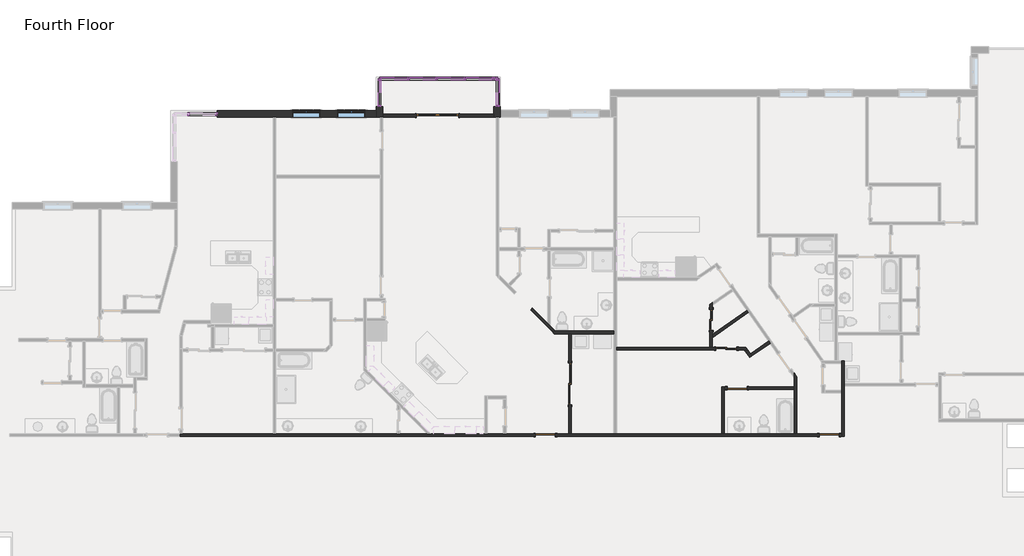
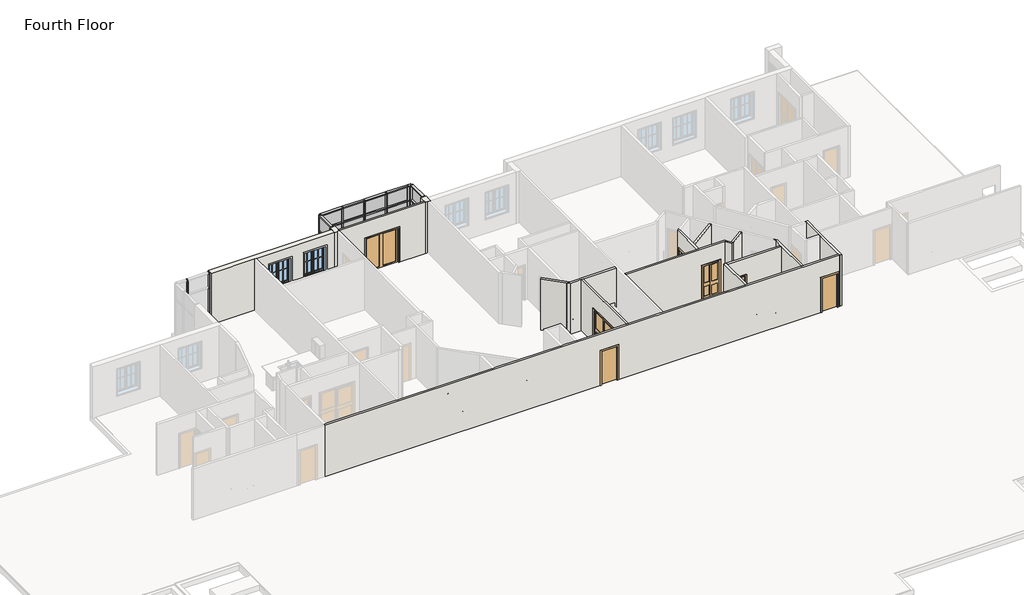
# One storey, part 10 of 17: 46 members, 17 walls, 14 plates, 7 doors, 2 windows.
"""IFC4 building model written with IfcOpenShell, lengths in millimetres."""

from ifc_helpers import new_model, si_unit, frame, origin, place, context, project, spatial, polyline, outline, extrude, faceted_brep, transform, mapped, element, save
from components import door_0a7806e9, door_c29894e6, door_88c23cd7, door_caaf2a11, rectangular_mullion_rectangular_mullion_1_fa3625a1, rectangular_mullion_rectangular_mullion_1_6186cc23, rectangular_mullion_rectangular_mullion_1_049a2e78, rectangular_mullion_rectangular_mullion_1_5cd4c5ac, rectangular_mullion_rectangular_mullion_1_a50b3cda, rectangular_mullion_rectangular_mullion_1_7cbf0b94, rectangular_mullion_rectangular_mullion_1_273a15f2, rectangular_mullion_rectangular_mullion_1_867fe1e1, rectangular_mullion_rectangular_mullion_1_e7cd13e6, rectangular_mullion_rectangular_mullion_1_4b421c8f, system_panel_glazed_53e6f9fb, system_panel_glazed_cb820e14, system_panel_glazed_53e3ec8b, system_panel_glazed_bdec29fe, system_panel_glazed_a1d2dedd, system_panel_glazed_37454f57, window_33528cc2

model = new_model("IFC4")

# Units and contexts
model_context = context("Model", 3, world=origin())
ifc_project = project(units=[si_unit("LENGTHUNIT", "METRE", prefix="MILLI")], contexts=[model_context])

# Site, building, storey
site = spatial("IfcSite", under=ifc_project)
building = spatial("IfcBuilding", under=site)
storey = spatial("IfcBuildingStorey", under=building, Name="Fourth Floor", Elevation=9144.0)

# Doors
placement = place(None, origin())
door_shape = door_0a7806e9(model_context)
element("IfcDoor", 1, ObjectType="Double-Glass 1 : 72\" x 82\"", at=placement, inside=storey, context=model_context, shape_type="MappedRepresentation", body=[
    mapped(door_shape, transform((29070.5311023, 16131.8552839, 9144.0), x_axis=(1.0, 0.0, 0.0), y_axis=(0.0, 1.0, 0.0), z_axis=(0.0, 0.0, 1.0))),
])
door_2_shape = door_c29894e6(model_context)
element("IfcDoor", 2, ObjectType="Single-Flush : 34\" x 80\"", at=placement, inside=storey, context=model_context, shape_type="MappedRepresentation", body=[
    mapped(door_2_shape, transform((46002.0126872, 2302.2091714, 9144.0), x_axis=(1.0, 0.0, 0.0), y_axis=(0.0, 1.0, 0.0), z_axis=(0.0, 0.0, 1.0))),
])
element("IfcDoor", 3, ObjectType="Single-Flush : 34\" x 80\"", at=placement, inside=storey, context=model_context, shape_type="MappedRepresentation", body=[
    mapped(door_2_shape, transform((42028.0852525, 4334.2091714, 9144.0), x_axis=(-1.0, 0.0, 0.0), y_axis=(0.0, -1.0, 0.0), z_axis=(0.0, 0.0, 1.0))),
])
element("IfcDoor", 4, ObjectType="Single-Flush : 34\" x 80\"", at=placement, inside=storey, context=model_context, shape_type="MappedRepresentation", body=[
    mapped(door_2_shape, transform((33733.8246645, 2302.2091714, 9144.0), x_axis=(1.0, 0.0, 0.0), y_axis=(0.0, 1.0, 0.0), z_axis=(0.0, 0.0, 1.0))),
])
door_3_shape = door_88c23cd7(model_context)
element("IfcDoor", 5, ObjectType="Sliding-Closet : 36\" x 80\"", at=placement, inside=storey, context=model_context, shape_type="MappedRepresentation", body=[
    mapped(door_3_shape, transform((41029.9347694, 7292.860079, 9144.0), x_axis=(0.0, 1.0, 0.0), y_axis=(-1.0, 0.0, 0.0), z_axis=(0.0, 0.0, 1.0))),
])
element("IfcDoor", 6, ObjectType="Sliding-Closet : 36\" x 80\"", at=placement, inside=storey, context=model_context, shape_type="MappedRepresentation", body=[
    mapped(door_3_shape, transform((41563.3347694, 5921.260079, 9144.0), x_axis=(1.0, 0.0, 0.0), y_axis=(0.0, 1.0, 0.0), z_axis=(0.0, 0.0, 1.0))),
])
door_4_shape = door_caaf2a11(model_context)
element("IfcDoor", 7, ObjectType="Sliding-Closet : 72\" x 80\"", at=placement, inside=storey, context=model_context, shape_type="MappedRepresentation", body=[
    mapped(door_4_shape, transform((34927.6246645, 4525.6075569, 9144.0), x_axis=(0.0, 1.0, 0.0), y_axis=(-1.0, 0.0, 0.0), z_axis=(0.0, 0.0, 1.0))),
])

# Members
rectangular_mullion_rectangular_mullion_1_shape = rectangular_mullion_rectangular_mullion_1_fa3625a1(model_context)
element("IfcMember", 8, ObjectType="Rectangular Mullion : Rectangular Mullion 1", at=placement, inside=storey, context=model_context, shape_type="MappedRepresentation", body=[
    mapped(rectangular_mullion_rectangular_mullion_1_shape, transform((19487.8198571, 16206.4791823, 9144.0), x_axis=(0.0, 0.0, -1.0), y_axis=(0.0, 1.0, 0.0), z_axis=(1.0, 0.0, 0.0))),
])
rectangular_mullion_rectangular_mullion_1_2_shape = rectangular_mullion_rectangular_mullion_1_6186cc23(model_context)
element("IfcMember", 9, ObjectType="Rectangular Mullion : Rectangular Mullion 1", at=placement, inside=storey, context=model_context, shape_type="MappedRepresentation", body=[
    mapped(rectangular_mullion_rectangular_mullion_1_2_shape, transform((18300.3698568, 16206.4791823, 9144.0), x_axis=(-1.0, 0.0, 0.0), y_axis=(0.0, 1.0, 0.0), z_axis=(0.0, 0.0, -1.0))),
])
rectangular_mullion_rectangular_mullion_1_3_shape = rectangular_mullion_rectangular_mullion_1_049a2e78(model_context)
element("IfcMember", 10, ObjectType="Rectangular Mullion : Rectangular Mullion 1", at=placement, inside=storey, context=model_context, shape_type="MappedRepresentation", body=[
    mapped(rectangular_mullion_rectangular_mullion_1_3_shape, transform((18300.3698568, 16206.4791823, 11309.35), x_axis=(-1.0, 0.0, 0.0), y_axis=(0.0, 1.0, 0.0), z_axis=(0.0, 0.0, -1.0))),
])
rectangular_mullion_rectangular_mullion_1_4_shape = rectangular_mullion_rectangular_mullion_1_5cd4c5ac(model_context)
element("IfcMember", 11, ObjectType="Rectangular Mullion : Rectangular Mullion 1", at=placement, inside=storey, context=model_context, shape_type="MappedRepresentation", body=[
    mapped(rectangular_mullion_rectangular_mullion_1_4_shape, transform((19551.3198571, 16206.4791823, 12192.0), x_axis=(1.0, 0.0, 0.0), y_axis=(0.0, 1.0, 0.0), z_axis=(0.0, 0.0, 1.0))),
])
rectangular_mullion_rectangular_mullion_1_5_shape = rectangular_mullion_rectangular_mullion_1_a50b3cda(model_context)
element("IfcMember", 12, ObjectType="Rectangular Mullion : Rectangular Mullion 1", at=placement, inside=storey, context=model_context, shape_type="MappedRepresentation", body=[
    mapped(rectangular_mullion_rectangular_mullion_1_5_shape, transform((19551.3198571, 16206.4791823, 11309.35), x_axis=(1.0, 0.0, 0.0), y_axis=(0.0, 1.0, 0.0), z_axis=(0.0, 0.0, 1.0))),
])
element("IfcMember", 13, ObjectType="Rectangular Mullion : Rectangular Mullion 1", at=placement, inside=storey, context=model_context, shape_type="MappedRepresentation", body=[
    mapped(rectangular_mullion_rectangular_mullion_1_shape, transform((27780.9198574, 17730.4791823, 12192.0), x_axis=(0.0, 0.0, 1.0), y_axis=(0.0, -1.0, 0.0), z_axis=(1.0, 0.0, 0.0))),
])
element("IfcMember", 14, ObjectType="Rectangular Mullion : Rectangular Mullion 1", at=placement, inside=storey, context=model_context, shape_type="MappedRepresentation", body=[
    mapped(rectangular_mullion_rectangular_mullion_1_shape, transform((29000.1198574, 17730.4791823, 12192.0), x_axis=(0.0, 0.0, 1.0), y_axis=(0.0, -1.0, 0.0), z_axis=(1.0, 0.0, 0.0))),
])
element("IfcMember", 15, ObjectType="Rectangular Mullion : Rectangular Mullion 1", at=placement, inside=storey, context=model_context, shape_type="MappedRepresentation", body=[
    mapped(rectangular_mullion_rectangular_mullion_1_shape, transform((30219.3198574, 17730.4791823, 12192.0), x_axis=(0.0, 0.0, 1.0), y_axis=(0.0, -1.0, 0.0), z_axis=(1.0, 0.0, 0.0))),
])
element("IfcMember", 16, ObjectType="Rectangular Mullion : Rectangular Mullion 1", at=placement, inside=storey, context=model_context, shape_type="MappedRepresentation", body=[
    mapped(rectangular_mullion_rectangular_mullion_1_shape, transform((31438.5198574, 17730.4791823, 12192.0), x_axis=(0.0, 0.0, 1.0), y_axis=(0.0, -1.0, 0.0), z_axis=(1.0, 0.0, 0.0))),
])
element("IfcMember", 17, ObjectType="Rectangular Mullion : Rectangular Mullion 1", at=placement, inside=storey, context=model_context, shape_type="MappedRepresentation", body=[
    mapped(rectangular_mullion_rectangular_mullion_1_shape, transform((26625.2198571, 17730.4791823, 9144.0), x_axis=(0.0, 0.0, -1.0), y_axis=(0.0, -1.0, 0.0), z_axis=(-1.0, 0.0, 0.0))),
])
element("IfcMember", 18, ObjectType="Rectangular Mullion : Rectangular Mullion 1", at=placement, inside=storey, context=model_context, shape_type="MappedRepresentation", body=[
    mapped(rectangular_mullion_rectangular_mullion_1_shape, transform((27844.4198574, 17730.4791823, 9144.0), x_axis=(0.0, 0.0, -1.0), y_axis=(0.0, -1.0, 0.0), z_axis=(-1.0, 0.0, 0.0))),
])
element("IfcMember", 19, ObjectType="Rectangular Mullion : Rectangular Mullion 1", at=placement, inside=storey, context=model_context, shape_type="MappedRepresentation", body=[
    mapped(rectangular_mullion_rectangular_mullion_1_shape, transform((29063.6198574, 17730.4791823, 9144.0), x_axis=(0.0, 0.0, -1.0), y_axis=(0.0, -1.0, 0.0), z_axis=(-1.0, 0.0, 0.0))),
])
element("IfcMember", 20, ObjectType="Rectangular Mullion : Rectangular Mullion 1", at=placement, inside=storey, context=model_context, shape_type="MappedRepresentation", body=[
    mapped(rectangular_mullion_rectangular_mullion_1_shape, transform((30282.8198574, 17730.4791823, 9144.0), x_axis=(0.0, 0.0, -1.0), y_axis=(0.0, -1.0, 0.0), z_axis=(-1.0, 0.0, 0.0))),
])
element("IfcMember", 21, ObjectType="Rectangular Mullion : Rectangular Mullion 1", at=placement, inside=storey, context=model_context, shape_type="MappedRepresentation", body=[
    mapped(rectangular_mullion_rectangular_mullion_1_5_shape, transform((26561.7198571, 17730.4791823, 9144.0), x_axis=(0.0, 1.0, 0.0), y_axis=(1.0, 0.0, 0.0), z_axis=(0.0, 0.0, -1.0))),
])
element("IfcMember", 22, ObjectType="Rectangular Mullion : Rectangular Mullion 1", at=placement, inside=storey, context=model_context, shape_type="MappedRepresentation", body=[
    mapped(rectangular_mullion_rectangular_mullion_1_5_shape, transform((31667.447822, 17730.4791823, 9144.0), x_axis=(1.0, 0.0, 0.0), y_axis=(0.0, -1.0, 0.0), z_axis=(0.0, 0.0, -1.0))),
])
element("IfcMember", 23, ObjectType="Rectangular Mullion : Rectangular Mullion 1", at=placement, inside=storey, context=model_context, shape_type="MappedRepresentation", body=[
    mapped(rectangular_mullion_rectangular_mullion_1_5_shape, transform((31667.447822, 16511.2791823, 9144.0), x_axis=(0.0, -1.0, 0.0), y_axis=(-1.0, 0.0, 0.0), z_axis=(0.0, 0.0, -1.0))),
])
element("IfcMember", 24, ObjectType="Rectangular Mullion : Rectangular Mullion 1", at=placement, inside=storey, context=model_context, shape_type="MappedRepresentation", body=[
    mapped(rectangular_mullion_rectangular_mullion_1_4_shape, transform((26561.7198571, 17730.4791823, 11309.35), x_axis=(0.0, 1.0, 0.0), y_axis=(1.0, 0.0, 0.0), z_axis=(0.0, 0.0, -1.0))),
])
element("IfcMember", 25, ObjectType="Rectangular Mullion : Rectangular Mullion 1", at=placement, inside=storey, context=model_context, shape_type="MappedRepresentation", body=[
    mapped(rectangular_mullion_rectangular_mullion_1_4_shape, transform((31667.447822, 17730.4791823, 11309.35), x_axis=(1.0, 0.0, 0.0), y_axis=(0.0, -1.0, 0.0), z_axis=(0.0, 0.0, -1.0))),
])
element("IfcMember", 26, ObjectType="Rectangular Mullion : Rectangular Mullion 1", at=placement, inside=storey, context=model_context, shape_type="MappedRepresentation", body=[
    mapped(rectangular_mullion_rectangular_mullion_1_4_shape, transform((31667.447822, 16511.2791823, 11309.35), x_axis=(0.0, -1.0, 0.0), y_axis=(-1.0, 0.0, 0.0), z_axis=(0.0, 0.0, -1.0))),
])
element("IfcMember", 27, ObjectType="Rectangular Mullion : Rectangular Mullion 1", at=placement, inside=storey, context=model_context, shape_type="MappedRepresentation", body=[
    mapped(rectangular_mullion_rectangular_mullion_1_4_shape, transform((26561.7198571, 16511.2791823, 12192.0), x_axis=(0.0, -1.0, 0.0), y_axis=(1.0, 0.0, 0.0), z_axis=(0.0, 0.0, 1.0))),
])
element("IfcMember", 28, ObjectType="Rectangular Mullion : Rectangular Mullion 1", at=placement, inside=storey, context=model_context, shape_type="MappedRepresentation", body=[
    mapped(rectangular_mullion_rectangular_mullion_1_4_shape, transform((26561.7198571, 17730.4791823, 12192.0), x_axis=(-1.0, 0.0, 0.0), y_axis=(0.0, -1.0, 0.0), z_axis=(0.0, 0.0, 1.0))),
])
element("IfcMember", 29, ObjectType="Rectangular Mullion : Rectangular Mullion 1", at=placement, inside=storey, context=model_context, shape_type="MappedRepresentation", body=[
    mapped(rectangular_mullion_rectangular_mullion_1_4_shape, transform((31667.447822, 17730.4791823, 12192.0), x_axis=(0.0, 1.0, 0.0), y_axis=(-1.0, 0.0, 0.0), z_axis=(0.0, 0.0, 1.0))),
])
element("IfcMember", 30, ObjectType="Rectangular Mullion : Rectangular Mullion 1", at=placement, inside=storey, context=model_context, shape_type="MappedRepresentation", body=[
    mapped(rectangular_mullion_rectangular_mullion_1_5_shape, transform((26561.7198571, 16511.2791823, 11309.35), x_axis=(0.0, -1.0, 0.0), y_axis=(1.0, 0.0, 0.0), z_axis=(0.0, 0.0, 1.0))),
])
element("IfcMember", 31, ObjectType="Rectangular Mullion : Rectangular Mullion 1", at=placement, inside=storey, context=model_context, shape_type="MappedRepresentation", body=[
    mapped(rectangular_mullion_rectangular_mullion_1_5_shape, transform((26561.7198571, 17730.4791823, 11309.35), x_axis=(-1.0, 0.0, 0.0), y_axis=(0.0, -1.0, 0.0), z_axis=(0.0, 0.0, 1.0))),
])
element("IfcMember", 32, ObjectType="Rectangular Mullion : Rectangular Mullion 1", at=placement, inside=storey, context=model_context, shape_type="MappedRepresentation", body=[
    mapped(rectangular_mullion_rectangular_mullion_1_5_shape, transform((31667.447822, 17730.4791823, 11309.35), x_axis=(0.0, 1.0, 0.0), y_axis=(-1.0, 0.0, 0.0), z_axis=(0.0, 0.0, 1.0))),
])
rectangular_mullion_rectangular_mullion_1_6_shape = rectangular_mullion_rectangular_mullion_1_7cbf0b94(model_context)
element("IfcMember", 33, ObjectType="Rectangular Mullion : Rectangular Mullion 1", at=placement, inside=storey, context=model_context, shape_type="MappedRepresentation", body=[
    mapped(rectangular_mullion_rectangular_mullion_1_6_shape, transform((27780.9198574, 17730.4791823, 11309.35), x_axis=(0.0, 0.0, 1.0), y_axis=(0.0, -1.0, 0.0), z_axis=(1.0, 0.0, 0.0))),
])
element("IfcMember", 34, ObjectType="Rectangular Mullion : Rectangular Mullion 1", at=placement, inside=storey, context=model_context, shape_type="MappedRepresentation", body=[
    mapped(rectangular_mullion_rectangular_mullion_1_6_shape, transform((29000.1198574, 17730.4791823, 11309.35), x_axis=(0.0, 0.0, 1.0), y_axis=(0.0, -1.0, 0.0), z_axis=(1.0, 0.0, 0.0))),
])
element("IfcMember", 35, ObjectType="Rectangular Mullion : Rectangular Mullion 1", at=placement, inside=storey, context=model_context, shape_type="MappedRepresentation", body=[
    mapped(rectangular_mullion_rectangular_mullion_1_6_shape, transform((30219.3198574, 17730.4791823, 11309.35), x_axis=(0.0, 0.0, 1.0), y_axis=(0.0, -1.0, 0.0), z_axis=(1.0, 0.0, 0.0))),
])
element("IfcMember", 36, ObjectType="Rectangular Mullion : Rectangular Mullion 1", at=placement, inside=storey, context=model_context, shape_type="MappedRepresentation", body=[
    mapped(rectangular_mullion_rectangular_mullion_1_6_shape, transform((31438.5198574, 17730.4791823, 11309.35), x_axis=(0.0, 0.0, 1.0), y_axis=(0.0, -1.0, 0.0), z_axis=(1.0, 0.0, 0.0))),
])
element("IfcMember", 37, ObjectType="Rectangular Mullion : Rectangular Mullion 1", at=placement, inside=storey, context=model_context, shape_type="MappedRepresentation", body=[
    mapped(rectangular_mullion_rectangular_mullion_1_2_shape, transform((27812.6698574, 17730.4791823, 9144.0), x_axis=(1.0, 0.0, 0.0), y_axis=(0.0, -1.0, 0.0), z_axis=(0.0, 0.0, -1.0))),
])
element("IfcMember", 38, ObjectType="Rectangular Mullion : Rectangular Mullion 1", at=placement, inside=storey, context=model_context, shape_type="MappedRepresentation", body=[
    mapped(rectangular_mullion_rectangular_mullion_1_2_shape, transform((29031.8698574, 17730.4791823, 9144.0), x_axis=(1.0, 0.0, 0.0), y_axis=(0.0, -1.0, 0.0), z_axis=(0.0, 0.0, -1.0))),
])
element("IfcMember", 39, ObjectType="Rectangular Mullion : Rectangular Mullion 1", at=placement, inside=storey, context=model_context, shape_type="MappedRepresentation", body=[
    mapped(rectangular_mullion_rectangular_mullion_1_2_shape, transform((30251.0698574, 17730.4791823, 9144.0), x_axis=(1.0, 0.0, 0.0), y_axis=(0.0, -1.0, 0.0), z_axis=(0.0, 0.0, -1.0))),
])
element("IfcMember", 40, ObjectType="Rectangular Mullion : Rectangular Mullion 1", at=placement, inside=storey, context=model_context, shape_type="MappedRepresentation", body=[
    mapped(rectangular_mullion_rectangular_mullion_1_2_shape, transform((31470.2698574, 17730.4791823, 9144.0), x_axis=(1.0, 0.0, 0.0), y_axis=(0.0, -1.0, 0.0), z_axis=(0.0, 0.0, -1.0))),
])
element("IfcMember", 41, ObjectType="Rectangular Mullion : Rectangular Mullion 1", at=placement, inside=storey, context=model_context, shape_type="MappedRepresentation", body=[
    mapped(rectangular_mullion_rectangular_mullion_1_3_shape, transform((27812.6698574, 17730.4791823, 11309.35), x_axis=(1.0, 0.0, 0.0), y_axis=(0.0, -1.0, 0.0), z_axis=(0.0, 0.0, -1.0))),
])
element("IfcMember", 42, ObjectType="Rectangular Mullion : Rectangular Mullion 1", at=placement, inside=storey, context=model_context, shape_type="MappedRepresentation", body=[
    mapped(rectangular_mullion_rectangular_mullion_1_3_shape, transform((29031.8698574, 17730.4791823, 11309.35), x_axis=(1.0, 0.0, 0.0), y_axis=(0.0, -1.0, 0.0), z_axis=(0.0, 0.0, -1.0))),
])
element("IfcMember", 43, ObjectType="Rectangular Mullion : Rectangular Mullion 1", at=placement, inside=storey, context=model_context, shape_type="MappedRepresentation", body=[
    mapped(rectangular_mullion_rectangular_mullion_1_3_shape, transform((30251.0698574, 17730.4791823, 11309.35), x_axis=(1.0, 0.0, 0.0), y_axis=(0.0, -1.0, 0.0), z_axis=(0.0, 0.0, -1.0))),
])
element("IfcMember", 44, ObjectType="Rectangular Mullion : Rectangular Mullion 1", at=placement, inside=storey, context=model_context, shape_type="MappedRepresentation", body=[
    mapped(rectangular_mullion_rectangular_mullion_1_3_shape, transform((31470.2698574, 17730.4791823, 11309.35), x_axis=(1.0, 0.0, 0.0), y_axis=(0.0, -1.0, 0.0), z_axis=(0.0, 0.0, -1.0))),
])
rectangular_mullion_rectangular_mullion_1_7_shape = rectangular_mullion_rectangular_mullion_1_273a15f2(model_context)
element("IfcMember", 45, ObjectType="Rectangular Mullion : Rectangular Mullion 1", at=placement, inside=storey, context=model_context, shape_type="MappedRepresentation", body=[
    mapped(rectangular_mullion_rectangular_mullion_1_7_shape, transform((26561.7198571, 17666.9791823, 12192.0), x_axis=(0.0, 0.0, 1.0), y_axis=(1.0, 0.0, 0.0), z_axis=(0.0, 1.0, 0.0))),
])
element("IfcMember", 46, ObjectType="Rectangular Mullion : Rectangular Mullion 1", at=placement, inside=storey, context=model_context, shape_type="MappedRepresentation", body=[
    mapped(rectangular_mullion_rectangular_mullion_1_7_shape, transform((31667.447822, 16574.7791823, 12192.0), x_axis=(0.0, 0.0, 1.0), y_axis=(-1.0, 0.0, 0.0), z_axis=(0.0, -1.0, 0.0))),
])
element("IfcMember", 47, ObjectType="Rectangular Mullion : Rectangular Mullion 1", at=placement, inside=storey, context=model_context, shape_type="MappedRepresentation", body=[
    mapped(rectangular_mullion_rectangular_mullion_1_7_shape, transform((26561.7198571, 16574.7791823, 9144.0), x_axis=(0.0, 0.0, -1.0), y_axis=(1.0, 0.0, 0.0), z_axis=(0.0, -1.0, 0.0))),
])
element("IfcMember", 48, ObjectType="Rectangular Mullion : Rectangular Mullion 1", at=placement, inside=storey, context=model_context, shape_type="MappedRepresentation", body=[
    mapped(rectangular_mullion_rectangular_mullion_1_7_shape, transform((31667.447822, 17666.9791823, 9144.0), x_axis=(0.0, 0.0, -1.0), y_axis=(-1.0, 0.0, 0.0), z_axis=(0.0, 1.0, 0.0))),
])
rectangular_mullion_rectangular_mullion_1_8_shape = rectangular_mullion_rectangular_mullion_1_867fe1e1(model_context)
element("IfcMember", 49, ObjectType="Rectangular Mullion : Rectangular Mullion 1", at=placement, inside=storey, context=model_context, shape_type="MappedRepresentation", body=[
    mapped(rectangular_mullion_rectangular_mullion_1_8_shape, transform((26561.7198571, 17666.9791823, 11309.35), x_axis=(0.0, 0.0, 1.0), y_axis=(1.0, 0.0, 0.0), z_axis=(0.0, 1.0, 0.0))),
])
element("IfcMember", 50, ObjectType="Rectangular Mullion : Rectangular Mullion 1", at=placement, inside=storey, context=model_context, shape_type="MappedRepresentation", body=[
    mapped(rectangular_mullion_rectangular_mullion_1_8_shape, transform((31667.447822, 16574.7791823, 11309.35), x_axis=(0.0, 0.0, 1.0), y_axis=(-1.0, 0.0, 0.0), z_axis=(0.0, -1.0, 0.0))),
])
rectangular_mullion_rectangular_mullion_1_9_shape = rectangular_mullion_rectangular_mullion_1_e7cd13e6(model_context)
element("IfcMember", 51, ObjectType="Rectangular Mullion : Rectangular Mullion 1", at=placement, inside=storey, context=model_context, shape_type="MappedRepresentation", body=[
    mapped(rectangular_mullion_rectangular_mullion_1_9_shape, transform((31603.947822, 17730.4791823, 12192.0), x_axis=(0.0, 0.0, 1.0), y_axis=(0.0, -1.0, 0.0), z_axis=(1.0, 0.0, 0.0))),
])
element("IfcMember", 52, ObjectType="Rectangular Mullion : Rectangular Mullion 1", at=placement, inside=storey, context=model_context, shape_type="MappedRepresentation", body=[
    mapped(rectangular_mullion_rectangular_mullion_1_9_shape, transform((31502.0198574, 17730.4791823, 9144.0), x_axis=(0.0, 0.0, -1.0), y_axis=(0.0, -1.0, 0.0), z_axis=(-1.0, 0.0, 0.0))),
])
rectangular_mullion_rectangular_mullion_1_10_shape = rectangular_mullion_rectangular_mullion_1_4b421c8f(model_context)
element("IfcMember", 53, ObjectType="Rectangular Mullion : Rectangular Mullion 1", at=placement, inside=storey, context=model_context, shape_type="MappedRepresentation", body=[
    mapped(rectangular_mullion_rectangular_mullion_1_10_shape, transform((31603.947822, 17730.4791823, 11309.35), x_axis=(0.0, 0.0, 1.0), y_axis=(0.0, -1.0, 0.0), z_axis=(1.0, 0.0, 0.0))),
])

# Plates
system_panel_glazed_shape = system_panel_glazed_53e6f9fb(model_context)
element("IfcPlate", 54, ObjectType="System Panel : Glazed", at=placement, inside=storey, context=model_context, shape_type="MappedRepresentation", body=[
    mapped(system_panel_glazed_shape, transform((27203.0698573, 17730.4791823, 9207.5), x_axis=(1.0, 0.0, 0.0), y_axis=(0.0, 1.0, 0.0), z_axis=(0.0, 0.0, 1.0))),
])
element("IfcPlate", 55, ObjectType="System Panel : Glazed", at=placement, inside=storey, context=model_context, shape_type="MappedRepresentation", body=[
    mapped(system_panel_glazed_shape, transform((28422.2698574, 17730.4791823, 9207.5), x_axis=(1.0, 0.0, 0.0), y_axis=(0.0, 1.0, 0.0), z_axis=(0.0, 0.0, 1.0))),
])
element("IfcPlate", 56, ObjectType="System Panel : Glazed", at=placement, inside=storey, context=model_context, shape_type="MappedRepresentation", body=[
    mapped(system_panel_glazed_shape, transform((29641.4698574, 17730.4791823, 9207.5), x_axis=(1.0, 0.0, 0.0), y_axis=(0.0, 1.0, 0.0), z_axis=(0.0, 0.0, 1.0))),
])
element("IfcPlate", 57, ObjectType="System Panel : Glazed", at=placement, inside=storey, context=model_context, shape_type="MappedRepresentation", body=[
    mapped(system_panel_glazed_shape, transform((30860.6698574, 17730.4791823, 9207.5), x_axis=(1.0, 0.0, 0.0), y_axis=(0.0, 1.0, 0.0), z_axis=(0.0, 0.0, 1.0))),
])
system_panel_glazed_2_shape = system_panel_glazed_cb820e14(model_context)
element("IfcPlate", 58, ObjectType="System Panel : Glazed", at=placement, inside=storey, context=model_context, shape_type="MappedRepresentation", body=[
    mapped(system_panel_glazed_2_shape, transform((27203.0698573, 17730.4791823, 11341.1), x_axis=(1.0, 0.0, 0.0), y_axis=(0.0, 1.0, 0.0), z_axis=(0.0, 0.0, 1.0))),
])
element("IfcPlate", 59, ObjectType="System Panel : Glazed", at=placement, inside=storey, context=model_context, shape_type="MappedRepresentation", body=[
    mapped(system_panel_glazed_2_shape, transform((28422.2698574, 17730.4791823, 11341.1), x_axis=(1.0, 0.0, 0.0), y_axis=(0.0, 1.0, 0.0), z_axis=(0.0, 0.0, 1.0))),
])
element("IfcPlate", 60, ObjectType="System Panel : Glazed", at=placement, inside=storey, context=model_context, shape_type="MappedRepresentation", body=[
    mapped(system_panel_glazed_2_shape, transform((29641.4698574, 17730.4791823, 11341.1), x_axis=(1.0, 0.0, 0.0), y_axis=(0.0, 1.0, 0.0), z_axis=(0.0, 0.0, 1.0))),
])
element("IfcPlate", 61, ObjectType="System Panel : Glazed", at=placement, inside=storey, context=model_context, shape_type="MappedRepresentation", body=[
    mapped(system_panel_glazed_2_shape, transform((30860.6698574, 17730.4791823, 11341.1), x_axis=(1.0, 0.0, 0.0), y_axis=(0.0, 1.0, 0.0), z_axis=(0.0, 0.0, 1.0))),
])
system_panel_glazed_3_shape = system_panel_glazed_53e3ec8b(model_context)
element("IfcPlate", 62, ObjectType="System Panel : Glazed", at=placement, inside=storey, context=model_context, shape_type="MappedRepresentation", body=[
    mapped(system_panel_glazed_3_shape, transform((26561.7198571, 17120.8791823, 9207.5), x_axis=(0.0, 1.0, 0.0), y_axis=(-1.0, 0.0, 0.0), z_axis=(0.0, 0.0, 1.0))),
])
element("IfcPlate", 63, ObjectType="System Panel : Glazed", at=placement, inside=storey, context=model_context, shape_type="MappedRepresentation", body=[
    mapped(system_panel_glazed_3_shape, transform((31667.447822, 17120.8791823, 9207.5), x_axis=(0.0, -1.0, 0.0), y_axis=(1.0, 0.0, 0.0), z_axis=(0.0, 0.0, 1.0))),
])
system_panel_glazed_4_shape = system_panel_glazed_bdec29fe(model_context)
element("IfcPlate", 64, ObjectType="System Panel : Glazed", at=placement, inside=storey, context=model_context, shape_type="MappedRepresentation", body=[
    mapped(system_panel_glazed_4_shape, transform((26561.7198571, 17120.8791823, 11341.1), x_axis=(0.0, 1.0, 0.0), y_axis=(-1.0, 0.0, 0.0), z_axis=(0.0, 0.0, 1.0))),
])
element("IfcPlate", 65, ObjectType="System Panel : Glazed", at=placement, inside=storey, context=model_context, shape_type="MappedRepresentation", body=[
    mapped(system_panel_glazed_4_shape, transform((31667.447822, 17120.8791823, 11341.1), x_axis=(0.0, -1.0, 0.0), y_axis=(1.0, 0.0, 0.0), z_axis=(0.0, 0.0, 1.0))),
])
system_panel_glazed_5_shape = system_panel_glazed_a1d2dedd(model_context)
element("IfcPlate", 66, ObjectType="System Panel : Glazed", at=placement, inside=storey, context=model_context, shape_type="MappedRepresentation", body=[
    mapped(system_panel_glazed_5_shape, transform((31552.9838397, 17730.4791823, 9207.5), x_axis=(1.0, 0.0, 0.0), y_axis=(0.0, 1.0, 0.0), z_axis=(0.0, 0.0, 1.0))),
])
system_panel_glazed_6_shape = system_panel_glazed_37454f57(model_context)
element("IfcPlate", 67, ObjectType="System Panel : Glazed", at=placement, inside=storey, context=model_context, shape_type="MappedRepresentation", body=[
    mapped(system_panel_glazed_6_shape, transform((31552.9838397, 17730.4791823, 11341.1), x_axis=(1.0, 0.0, 0.0), y_axis=(0.0, 1.0, 0.0), z_axis=(0.0, 0.0, 1.0))),
])

# Walls
element("IfcWall", 68, ObjectType="Exterior - Brick on Wood Stud", at=placement, inside=storey, context=model_context, shape_type="Brep", body=[
    faceted_brep([(31777.7798474, 16077.0865339, 9144.0), (31777.7798474, 16359.6615339, 9144.0), (31777.7798474, 16511.2791823, 9144.0), (31777.7798474, 16511.2791823, 12192.0), (31777.7798474, 16359.6615339, 12192.0), (31777.7798474, 16077.0865339, 12192.0), (31495.2048474, 16077.0865339, 9144.0), (31495.2048474, 16077.0865339, 12192.0), (31495.2048474, 16191.3865339, 12192.0), (31495.2048474, 16511.2791823, 12192.0), (31495.2048474, 16511.2791823, 9144.0), (31495.2048474, 16191.3865339, 9144.0), (31724.597822, 16077.0865339, 9144.0), (31610.297822, 16077.0865339, 9144.0), (31610.297822, 16077.0865339, 12192.0), (31724.597822, 16077.0865339, 12192.0)], [[[0, 1, 2, 3, 4, 5]], [[6, 7, 8, 9, 10, 11]], [[2, 1, 0, 12, 13, 6, 11, 10]], [[3, 2, 10, 9]], [[5, 4, 3, 9, 8, 7, 14, 15]], [[0, 5, 15, 14, 7, 6, 13, 12]]]),
])
element("IfcWall", 69, ObjectType="Exterior - Brick on Wood Stud", at=placement, inside=storey, context=model_context, shape_type="Brep", body=[
    faceted_brep([(26420.4323571, 16511.2791823, 9144.0), (26420.4323571, 16347.7666823, 9144.0), (26420.4323571, 16065.1916823, 9144.0), (26420.4323571, 16065.1916823, 12192.0), (26420.4323571, 16347.7666823, 12192.0), (26420.4323571, 16511.2791823, 12192.0), (26703.0073571, 16511.2791823, 9144.0), (26703.0073571, 16511.2791823, 12192.0), (26703.0073571, 16191.3865339, 12192.0), (26703.0073571, 16077.0865339, 12192.0), (26703.0073571, 16065.1916823, 12192.0), (26703.0073571, 16065.1916823, 9144.0), (26703.0073571, 16077.0865339, 9144.0), (26703.0073571, 16191.3865339, 9144.0)], [[[0, 1, 2, 3, 4, 5]], [[6, 7, 8, 9, 10, 11, 12, 13]], [[2, 1, 0, 6, 13, 12, 11]], [[5, 4, 3, 10, 9, 8, 7]], [[0, 5, 7, 6]], [[3, 2, 11, 10]]]),
])
element("IfcWall", 70, ObjectType="Exterior - Brick on Wood Stud", at=placement, inside=storey, context=model_context, shape_type="Brep", body=[
    faceted_brep([(26420.4323571, 16347.7666823, 9144.0), (19551.3198571, 16347.7666823, 9144.0), (19551.3198571, 16347.7666823, 12192.0), (26420.4323571, 16347.7666823, 12192.0), (25952.1198571, 16347.7666823, 11582.4), (24732.9198571, 16347.7666823, 11582.4), (24732.9198571, 16347.7666823, 10058.4), (25952.1198571, 16347.7666823, 10058.4), (24004.2573571, 16347.7666823, 11582.4), (22785.0573571, 16347.7666823, 11582.4), (22785.0573571, 16347.7666823, 10058.4), (24004.2573571, 16347.7666823, 10058.4), (26420.4323571, 16065.1916823, 9144.0), (26420.4323571, 16065.1916823, 12192.0), (22080.2073571, 16065.1916823, 12192.0), (21965.9073571, 16065.1916823, 12192.0), (19551.3198571, 16065.1916823, 12192.0), (19551.3198571, 16065.1916823, 9144.0), (21965.9073571, 16065.1916823, 9144.0), (22080.2073571, 16065.1916823, 9144.0), (25952.1198571, 16065.1916823, 11582.4), (25952.1198571, 16065.1916823, 10058.4), (24732.9198571, 16065.1916823, 10058.4), (24732.9198571, 16065.1916823, 11582.4), (24004.2573571, 16065.1916823, 11582.4), (24004.2573571, 16065.1916823, 10058.4), (22785.0573571, 16065.1916823, 10058.4), (22785.0573571, 16065.1916823, 11582.4)], [[[0, 1, 2, 3], [4, 5, 6, 7], [8, 9, 10, 11]], [[12, 13, 14, 15, 16, 17, 18, 19], [20, 21, 22, 23], [24, 25, 26, 27]], [[1, 0, 12, 19, 18, 17]], [[2, 1, 17, 16]], [[3, 2, 16, 15, 14, 13]], [[21, 20, 4, 7]], [[22, 21, 7, 6]], [[23, 22, 6, 5]], [[20, 23, 5, 4]], [[25, 24, 8, 11]], [[26, 25, 11, 10]], [[27, 26, 10, 9]], [[24, 27, 9, 8]], [[0, 3, 13, 12]]]),
])
element("IfcWall", 71, ObjectType="Interior - 4 1/2\" Partition", at=placement, inside=storey, context=model_context, shape_type="Brep", body=[
    faceted_brep([(46668.7626872, 2245.0591714, 9144.0), (46668.7626872, 4430.1886142, 9144.0), (46668.7626872, 4544.4886142, 9144.0), (46668.7626872, 5524.2893477, 9144.0), (46668.7626872, 5524.2893477, 12192.0), (46668.7626872, 4544.4886142, 12192.0), (46668.7626872, 4430.1886142, 12192.0), (46668.7626872, 2245.0591714, 12192.0), (46554.4626872, 2245.0591714, 9144.0), (46554.4626872, 2245.0591714, 12192.0), (46554.4626872, 2359.3591714, 12192.0), (46554.4626872, 4124.6591714, 12192.0), (46554.4626872, 4238.9591714, 12192.0), (46554.4626872, 5409.9893477, 12192.0), (46554.4626872, 5524.2893477, 12192.0), (46554.4626872, 5524.2893477, 9144.0), (46554.4626872, 5409.9893477, 9144.0), (46554.4626872, 4238.9591714, 9144.0), (46554.4626872, 4124.6591714, 9144.0), (46554.4626872, 2359.3591714, 9144.0)], [[[0, 1, 2, 3, 4, 5, 6, 7]], [[8, 9, 10, 11, 12, 13, 14, 15, 16, 17, 18, 19]], [[3, 2, 1, 0, 8, 19, 18, 17, 16, 15]], [[7, 6, 5, 4, 14, 13, 12, 11, 10, 9]], [[0, 7, 9, 8]], [[4, 3, 15, 14]]]),
])
element("IfcWall", 72, ObjectType="Interior - 4 1/2\" Partition", at=placement, inside=storey, context=model_context, shape_type="Brep", body=[
    faceted_brep([(45570.2126872, 2359.3591714, 9144.0), (44606.2949591, 2359.3591714, 9144.0), (44491.9949591, 2359.3591714, 9144.0), (41475.6352525, 2359.3591714, 9144.0), (41361.3352525, 2359.3591714, 9144.0), (36816.4178001, 2359.3591714, 9144.0), (36702.1178001, 2359.3591714, 9144.0), (34857.7746645, 2359.3591714, 9144.0), (34743.4746645, 2359.3591714, 9144.0), (34165.6246645, 2359.3591714, 9144.0), (34165.6246645, 2359.3591714, 11176.0), (33302.0246645, 2359.3591714, 11176.0), (33302.0246645, 2359.3591714, 9144.0), (32034.1576897, 2359.3591714, 9144.0), (31919.8576897, 2359.3591714, 9144.0), (31221.3576897, 2359.3591714, 9144.0), (31107.0576897, 2359.3591714, 9144.0), (28783.4392197, 2359.3591714, 9144.0), (28621.7946095, 2359.3591714, 9144.0), (27441.30388, 2359.3591714, 9144.0), (27327.00388, 2359.3591714, 9144.0), (22080.2073571, 2359.3591714, 9144.0), (21965.9073571, 2359.3591714, 9144.0), (18027.8493195, 2359.3591714, 9144.0), (17913.5493195, 2359.3591714, 9144.0), (17913.5493195, 2359.3591714, 12192.0), (18027.8493195, 2359.3591714, 12192.0), (21965.9073571, 2359.3591714, 12192.0), (22080.2073571, 2359.3591714, 12192.0), (27327.00388, 2359.3591714, 12192.0), (27441.30388, 2359.3591714, 12192.0), (28621.7946095, 2359.3591714, 12192.0), (28783.4392197, 2359.3591714, 12192.0), (31107.0576897, 2359.3591714, 12192.0), (31221.3576897, 2359.3591714, 12192.0), (31919.8576897, 2359.3591714, 12192.0), (32034.1576897, 2359.3591714, 12192.0), (34743.4746645, 2359.3591714, 12192.0), (34857.7746645, 2359.3591714, 12192.0), (36702.1178001, 2359.3591714, 12192.0), (36816.4178001, 2359.3591714, 12192.0), (41361.3352525, 2359.3591714, 12192.0), (41475.6352525, 2359.3591714, 12192.0), (44491.9949591, 2359.3591714, 12192.0), (44606.2949591, 2359.3591714, 12192.0), (46554.4626872, 2359.3591714, 12192.0), (46554.4626872, 2359.3591714, 9144.0), (46433.8126872, 2359.3591714, 9144.0), (46433.8126872, 2359.3591714, 11176.0), (45570.2126872, 2359.3591714, 11176.0), (34165.6246645, 2245.0591714, 11176.0), (34165.6246645, 2245.0591714, 9144.0), (45570.2126872, 2245.0591714, 9144.0), (45570.2126872, 2245.0591714, 11176.0), (46433.8126872, 2245.0591714, 11176.0), (46433.8126872, 2245.0591714, 9144.0), (46554.4626872, 2245.0591714, 9144.0), (46554.4626872, 2245.0591714, 12192.0), (17913.5493195, 2245.0591714, 12192.0), (17913.5493195, 2245.0591714, 9144.0), (33302.0246645, 2245.0591714, 9144.0), (33302.0246645, 2245.0591714, 11176.0)], [[[0, 1, 2, 3, 4, 5, 6, 7, 8, 9, 10, 11, 12, 13, 14, 15, 16, 17, 18, 19, 20, 21, 22, 23, 24, 25, 26, 27, 28, 29, 30, 31, 32, 33, 34, 35, 36, 37, 38, 39, 40, 41, 42, 43, 44, 45, 46, 47, 48, 49]], [[50, 51, 52, 53, 54, 55, 56, 57, 58, 59, 60, 61]], [[56, 55, 47, 46]], [[60, 59, 24, 23, 22, 21, 20, 19, 18, 17, 16, 15, 14, 13, 12]], [[52, 51, 9, 8, 7, 6, 5, 4, 3, 2, 1, 0]], [[45, 44, 43, 42, 41, 40, 39, 38, 37, 36, 35, 34, 33, 32, 31, 30, 29, 28, 27, 26, 25, 58, 57]], [[48, 47, 55, 54]], [[49, 48, 54, 53]], [[0, 49, 53, 52]], [[10, 9, 51, 50]], [[11, 10, 50, 61]], [[12, 11, 61, 60]], [[25, 24, 59, 58]], [[46, 45, 57, 56]]]),
])
element("IfcWall", 73, ObjectType="Interior - 4 1/2\" Partition", at=placement, inside=storey, context=model_context, shape_type="Brep", body=[
    faceted_brep([(41475.6352525, 2359.3591714, 9144.0), (41475.6352525, 4277.0591714, 9144.0), (41475.6352525, 4391.3591714, 9144.0), (41475.6352525, 4391.3591714, 12192.0), (41475.6352525, 4277.0591714, 12192.0), (41475.6352525, 2359.3591714, 12192.0), (41361.3352525, 2359.3591714, 9144.0), (41361.3352525, 2359.3591714, 12192.0), (41361.3352525, 4391.3591714, 12192.0), (41361.3352525, 4391.3591714, 9144.0)], [[[0, 1, 2, 3, 4, 5]], [[6, 7, 8, 9]], [[2, 1, 0, 6, 9]], [[5, 4, 3, 8, 7]], [[3, 2, 9, 8]], [[0, 5, 7, 6]]]),
])
element("IfcWall", 74, ObjectType="Interior - 4 1/2\" Partition", at=placement, inside=storey, context=model_context, shape_type="SweptSolid", body=[
    extrude(outline(polyline([(9144.0, 41475.6352525), (9144.0, 41596.2852525), (11176.0, 41596.2852525), (11176.0, 42459.8852525), (9144.0, 42459.8852525), (9144.0, 44491.9949591), (12192.0, 44491.9949591), (12192.0, 41475.6352525), (9144.0, 41475.6352525)])), frame((0.0, 4277.0591714, 0.0), z_axis=(0.0, 1.0, 0.0), x_axis=(0.0, 0.0, 1.0)), (0.0, 0.0, 1.0), 114.3),
])
element("IfcWall", 75, ObjectType="Interior - 4 1/2\" Partition", at=placement, inside=storey, context=model_context, shape_type="Brep", body=[
    faceted_brep([(44491.9949591, 4990.220165, 9144.0), (44491.9949591, 4790.9441963, 9144.0), (44491.9949591, 4391.3591714, 9144.0), (44491.9949591, 4277.0591714, 9144.0), (44491.9949591, 2359.3591714, 9144.0), (44491.9949591, 2359.3591714, 12192.0), (44491.9949591, 4277.0591714, 12192.0), (44491.9949591, 4391.3591714, 12192.0), (44491.9949591, 4790.9441963, 12192.0), (44491.9949591, 4990.220165, 12192.0), (44606.2949591, 4826.9828478, 9144.0), (44606.2949591, 4826.9828478, 12192.0), (44606.2949591, 2359.3591714, 12192.0), (44606.2949591, 2359.3591714, 9144.0)], [[[0, 1, 2, 3, 4, 5, 6, 7, 8, 9]], [[10, 11, 12, 13]], [[4, 3, 2, 1, 0, 10, 13]], [[9, 8, 7, 6, 5, 12, 11]], [[0, 9, 11, 10]], [[5, 4, 13, 12]]]),
])
element("IfcWall", 76, ObjectType="Interior - 4 1/2\" Partition", at=placement, inside=storey, context=model_context, shape_type="Brep", body=[
    faceted_brep([(42020.5347694, 5991.110079, 11176.0), (42020.5347694, 5991.110079, 9144.0), (42342.9173932, 5991.110079, 9144.0), (42482.4519287, 5991.110079, 9144.0), (42482.4519287, 5991.110079, 12192.0), (42342.9173932, 5991.110079, 12192.0), (36816.4178001, 5991.110079, 12192.0), (36816.4178001, 5991.110079, 9144.0), (41106.1347694, 5991.110079, 9144.0), (41106.1347694, 5991.110079, 11176.0), (42402.4182071, 6105.410079, 9144.0), (42020.5347694, 6105.410079, 9144.0), (42020.5347694, 6105.410079, 11176.0), (41106.1347694, 6105.410079, 11176.0), (41106.1347694, 6105.410079, 9144.0), (40960.0847694, 6105.410079, 9144.0), (40845.7847694, 6105.410079, 9144.0), (36816.4178001, 6105.410079, 9144.0), (36816.4178001, 6105.410079, 12192.0), (40845.7847694, 6105.410079, 12192.0), (40960.0847694, 6105.410079, 12192.0), (42402.4182071, 6105.410079, 12192.0)], [[[0, 1, 2, 3, 4, 5, 6, 7, 8, 9]], [[10, 11, 12, 13, 14, 15, 16, 17, 18, 19, 20, 21]], [[8, 7, 17, 16, 15, 14]], [[3, 2, 1, 11, 10]], [[6, 5, 4, 21, 20, 19, 18]], [[14, 13, 9, 8]], [[12, 11, 1, 0]], [[13, 12, 0, 9]], [[4, 3, 10, 21]], [[7, 6, 18, 17]]]),
])
element("IfcWall", 77, ObjectType="Interior - 4 1/2\" Partition", at=placement, inside=storey, context=model_context, shape_type="Brep", body=[
    faceted_brep([(42342.9173932, 5991.110079, 9144.0), (42571.294409, 5664.953899, 9144.0), (42571.294409, 5664.953899, 12192.0), (42342.9173932, 5991.110079, 12192.0), (42482.4519287, 5991.110079, 9144.0), (42482.4519287, 5991.110079, 12192.0), (42599.363701, 5824.1427644, 12192.0), (42664.9234877, 5730.5136857, 12192.0), (42664.9234877, 5730.5136857, 9144.0), (42599.363701, 5824.1427644, 9144.0)], [[[0, 1, 2, 3]], [[4, 5, 6, 7, 8, 9]], [[1, 0, 4, 9, 8]], [[3, 2, 7, 6, 5]], [[2, 1, 8, 7]], [[0, 3, 5, 4]]]),
])
element("IfcWall", 78, ObjectType="Interior - 4 1/2\" Partition", at=placement, inside=storey, context=model_context, shape_type="SweptSolid", body=[
    extrude(outline(polyline([(43449.4535887, 6279.8475763), (42664.9234877, 5730.5136857), (42599.363701, 5824.1427644), (43383.893802, 6373.476655), (43449.4535887, 6279.8475763)])), frame((0.0, 0.0, 9144.0), z_axis=(0.0, 0.0, 1.0), x_axis=(1.0, 0.0, 0.0)), (0.0, 0.0, 1.0), 3048.0),
])
element("IfcWall", 79, ObjectType="Interior - 4 1/2\" Partition", at=placement, inside=storey, context=model_context, shape_type="SweptSolid", body=[
    extrude(outline(polyline([(40960.0847694, 6659.476836), (42452.1089123, 7704.203388), (42517.668699, 7610.5743093), (40960.0847694, 6519.9423005), (40960.0847694, 6659.476836)])), frame((0.0, 0.0, 9144.0), z_axis=(0.0, 0.0, 1.0), x_axis=(1.0, 0.0, 0.0)), (0.0, 0.0, 1.0), 3048.0),
])
element("IfcWall", 80, ObjectType="Interior - 4 1/2\" Partition", at=placement, inside=storey, context=model_context, shape_type="Brep", body=[
    faceted_brep([(40960.0847694, 7750.060079, 11176.0), (40960.0847694, 7750.060079, 9144.0), (40960.0847694, 7905.9211855, 9144.0), (40960.0847694, 8045.455721, 9144.0), (40960.0847694, 8045.455721, 12192.0), (40960.0847694, 7905.9211855, 12192.0), (40960.0847694, 6659.476836, 12192.0), (40960.0847694, 6519.9423005, 12192.0), (40960.0847694, 6105.410079, 12192.0), (40960.0847694, 6105.410079, 9144.0), (40960.0847694, 6519.9423005, 9144.0), (40960.0847694, 6659.476836, 9144.0), (40960.0847694, 6835.660079, 9144.0), (40960.0847694, 6835.660079, 11176.0), (40845.7847694, 7965.4219994, 9144.0), (40845.7847694, 7750.060079, 9144.0), (40845.7847694, 7750.060079, 11176.0), (40845.7847694, 6835.660079, 11176.0), (40845.7847694, 6835.660079, 9144.0), (40845.7847694, 6105.410079, 9144.0), (40845.7847694, 6105.410079, 12192.0), (40845.7847694, 7965.4219994, 12192.0)], [[[0, 1, 2, 3, 4, 5, 6, 7, 8, 9, 10, 11, 12, 13]], [[14, 15, 16, 17, 18, 19, 20, 21]], [[12, 11, 10, 9, 19, 18]], [[3, 2, 1, 15, 14]], [[8, 7, 6, 5, 4, 21, 20]], [[18, 17, 13, 12]], [[16, 15, 1, 0]], [[17, 16, 0, 13]], [[4, 3, 14, 21]], [[9, 8, 20, 19]]]),
])
element("IfcWall", 81, ObjectType="Interior - 4 1/2\" Partition", at=placement, inside=storey, context=model_context, shape_type="SweptSolid", body=[
    extrude(outline(polyline([(6691.8559423, 9144.0), (5440.0075569, 9144.0), (5440.0075569, 11176.0), (3611.2075569, 11176.0), (3611.2075569, 9144.0), (2359.3591714, 9144.0), (2359.3591714, 12192.0), (6691.8559423, 12192.0), (6691.8559423, 9144.0)])), frame((34743.4746645, 0.0, 0.0), z_axis=(1.0, 0.0, 0.0), x_axis=(0.0, 1.0, 0.0)), (0.0, 0.0, 1.0), 114.3),
])
element("IfcWall", 82, ObjectType="Interior - 4 1/2\" Partition", at=placement, inside=storey, context=model_context, shape_type="Brep", body=[
    faceted_brep([(34122.1363121, 6691.8559423, 9144.0), (34743.4746645, 6691.8559423, 9144.0), (34857.7746645, 6691.8559423, 9144.0), (36702.1178001, 6691.8559423, 9144.0), (36702.1178001, 6691.8559423, 12192.0), (34857.7746645, 6691.8559423, 12192.0), (34743.4746645, 6691.8559423, 12192.0), (34122.1363121, 6691.8559423, 12192.0), (34007.8363121, 6806.1559423, 9144.0), (34007.8363121, 6806.1559423, 12192.0), (34169.4809223, 6806.1559423, 12192.0), (36702.1178001, 6806.1559423, 12192.0), (36702.1178001, 6806.1559423, 9144.0), (34169.4809223, 6806.1559423, 9144.0)], [[[0, 1, 2, 3, 4, 5, 6, 7]], [[8, 9, 10, 11, 12, 13]], [[3, 2, 1, 0, 8, 13, 12]], [[7, 6, 5, 4, 11, 10, 9]], [[0, 7, 9, 8]], [[4, 3, 12, 11]]]),
])
element("IfcWall", 83, ObjectType="Interior - 4 1/2\" Partition", at=placement, inside=storey, context=model_context, shape_type="SweptSolid", body=[
    extrude(outline(polyline([(11226.8, 29984.9311023), (9144.0, 29984.9311023), (9144.0, 31495.2048474), (12192.0, 31495.2048474), (12192.0, 26703.0073571), (9144.0, 26703.0073571), (9144.0, 28156.1311023), (11226.8, 28156.1311023), (11226.8, 29984.9311023)])), frame((0.0, 16077.0865339, 0.0), z_axis=(0.0, 1.0, 0.0), x_axis=(0.0, 0.0, 1.0)), (0.0, 0.0, 1.0), 114.3),
])
element("IfcWall", 84, ObjectType="Interior - 4 1/2\" Partition", at=placement, inside=storey, context=model_context, shape_type="Brep", body=[
    faceted_brep([(33092.2620803, 7721.7301741, 9144.0), (34007.8363121, 6806.1559423, 9144.0), (34007.8363121, 6806.1559423, 12192.0), (33092.2620803, 7721.7301741, 12192.0), (33173.0843854, 7802.5524792, 9144.0), (33173.0843854, 7802.5524792, 12192.0), (33839.1003506, 7136.5365139, 12192.0), (33953.4003506, 7022.2365139, 12192.0), (34169.4809223, 6806.1559423, 12192.0), (34169.4809223, 6806.1559423, 9144.0), (33953.4003506, 7022.2365139, 9144.0), (33839.1003506, 7136.5365139, 9144.0)], [[[0, 1, 2, 3]], [[4, 5, 6, 7, 8, 9, 10, 11]], [[1, 0, 4, 11, 10, 9]], [[3, 2, 8, 7, 6, 5]], [[0, 3, 5, 4]], [[2, 1, 9, 8]]]),
])

# Windows
window_shape = window_33528cc2(model_context)
element("IfcWindow", 85, ObjectType="Window-Casement-Double : 48\" x 60\"", at=placement, inside=storey, context=model_context, shape_type="MappedRepresentation", body=[
    mapped(window_shape, transform((25342.5198571, 16206.4791823, 9144.0), x_axis=(1.0, 0.0, 0.0), y_axis=(0.0, 1.0, 0.0), z_axis=(0.0, 0.0, 1.0))),
])
element("IfcWindow", 86, ObjectType="Window-Casement-Double : 48\" x 60\"", at=placement, inside=storey, context=model_context, shape_type="MappedRepresentation", body=[
    mapped(window_shape, transform((23394.6573571, 16206.4791823, 9144.0), x_axis=(1.0, 0.0, 0.0), y_axis=(0.0, 1.0, 0.0), z_axis=(0.0, 0.0, 1.0))),
])

save(model, "model.ifc")
